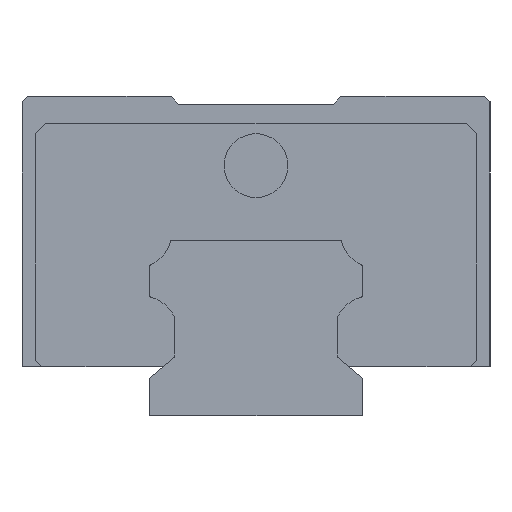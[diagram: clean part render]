
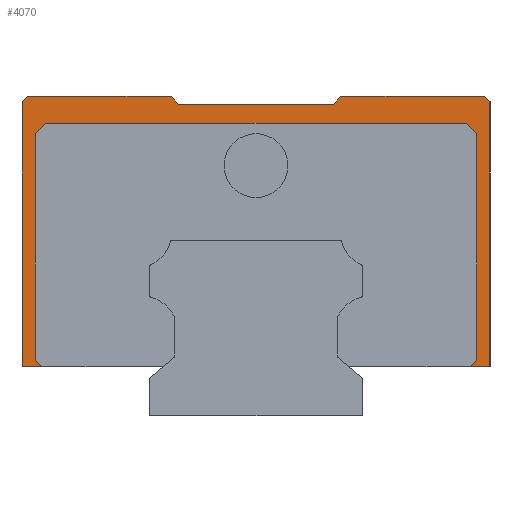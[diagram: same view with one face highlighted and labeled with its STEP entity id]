
A CAD part, left-side view. The second image highlights one B-rep face of the part: STEP entity #4070.
In plain terms, the highlighted planar face has unit normal (-1, 0, 0).
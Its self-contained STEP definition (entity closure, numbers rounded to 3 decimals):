
#18 = DIRECTION ( 'NONE',  ( 0., 0.643, -0.766 ) ) ;
#68 = CARTESIAN_POINT ( 'NONE',  ( -39., 22., 29.5 ) ) ;
#82 = VECTOR ( 'NONE', #4209, 1000. ) ;
#106 = DIRECTION ( 'NONE',  ( 0., 0.707, 0.707 ) ) ;
#134 = CARTESIAN_POINT ( 'NONE',  ( -39., -7.963, 30. ) ) ;
#135 = DIRECTION ( 'NONE',  ( 0., 0., 1. ) ) ;
#150 = DIRECTION ( 'NONE',  ( 0., 0., -1. ) ) ;
#154 = EDGE_LOOP ( 'NONE', ( #1640, #3802, #6086, #2633, #1705, #3835, #2294, #3677, #4543, #1935, #3776, #503, #4293, #3378, #2617, #3417, #715, #4851 ) ) ;
#211 = CARTESIAN_POINT ( 'NONE',  ( -39., -20.75, 30. ) ) ;
#216 = CARTESIAN_POINT ( 'NONE',  ( -39., -7.333, 29.25 ) ) ;
#223 = EDGE_CURVE ( 'NONE', #341, #5118, #1896, .T. ) ;
#238 = CARTESIAN_POINT ( 'NONE',  ( -39., -22., 30. ) ) ;
#315 = EDGE_CURVE ( 'NONE', #4822, #5720, #708, .T. ) ;
#331 = EDGE_CURVE ( 'NONE', #841, #4822, #5818, .T. ) ;
#341 = VERTEX_POINT ( 'NONE', #4939 ) ;
#343 = EDGE_CURVE ( 'NONE', #648, #3917, #5377, .T. ) ;
#409 = LINE ( 'NONE', #1359, #4228 ) ;
#412 = VECTOR ( 'NONE', #4991, 1000. ) ;
#423 = VERTEX_POINT ( 'NONE', #2969 ) ;
#498 = CARTESIAN_POINT ( 'NONE',  ( -39., -22., 27.5 ) ) ;
#503 = ORIENTED_EDGE ( 'NONE', *, *, #2989, .T. ) ;
#648 = VERTEX_POINT ( 'NONE', #3772 ) ;
#675 = CARTESIAN_POINT ( 'NONE',  ( -39., -22., 4.6 ) ) ;
#692 = VECTOR ( 'NONE', #5832, 1000. ) ;
#708 = LINE ( 'NONE', #675, #4040 ) ;
#715 = ORIENTED_EDGE ( 'NONE', *, *, #343, .F. ) ;
#726 = DIRECTION ( 'NONE',  ( 0., -1., 0. ) ) ;
#755 = DIRECTION ( 'NONE',  ( 0., 1., 0. ) ) ;
#759 = DIRECTION ( 'NONE',  ( 0., 0.707, 0.707 ) ) ;
#761 = VECTOR ( 'NONE', #18, 1000. ) ;
#821 = EDGE_CURVE ( 'NONE', #1596, #341, #5398, .T. ) ;
#841 = VERTEX_POINT ( 'NONE', #3886 ) ;
#1023 = CARTESIAN_POINT ( 'NONE',  ( -39., -22., 29.5 ) ) ;
#1072 = CARTESIAN_POINT ( 'NONE',  ( -39., -21.5, 30. ) ) ;
#1084 = VERTEX_POINT ( 'NONE', #3902 ) ;
#1149 = CARTESIAN_POINT ( 'NONE',  ( -39., 21.5, 30. ) ) ;
#1177 = CARTESIAN_POINT ( 'NONE',  ( -39., -7.333, 29.25 ) ) ;
#1182 = CARTESIAN_POINT ( 'NONE',  ( -39., -7.963, 30. ) ) ;
#1253 = VECTOR ( 'NONE', #755, 1000. ) ;
#1272 = VECTOR ( 'NONE', #5884, 1000. ) ;
#1344 = CARTESIAN_POINT ( 'NONE',  ( -39., -2.375, 49.625 ) ) ;
#1359 = CARTESIAN_POINT ( 'NONE',  ( -39., 22., 30. ) ) ;
#1381 = VECTOR ( 'NONE', #3400, 1000. ) ;
#1445 = CARTESIAN_POINT ( 'NONE',  ( -39., 11.775, -3.775 ) ) ;
#1596 = VERTEX_POINT ( 'NONE', #1177 ) ;
#1617 = CARTESIAN_POINT ( 'NONE',  ( -39., -22., 28. ) ) ;
#1640 = ORIENTED_EDGE ( 'NONE', *, *, #3051, .F. ) ;
#1705 = ORIENTED_EDGE ( 'NONE', *, *, #5559, .F. ) ;
#1723 = CARTESIAN_POINT ( 'NONE',  ( -39., 20.15, 4.6 ) ) ;
#1729 = CARTESIAN_POINT ( 'NONE',  ( -39., 9., 4.6 ) ) ;
#1737 = EDGE_CURVE ( 'NONE', #4753, #2543, #2481, .T. ) ;
#1896 = LINE ( 'NONE', #4722, #6022 ) ;
#1920 = DIRECTION ( 'NONE',  ( 0., 0.643, 0.766 ) ) ;
#1928 = DIRECTION ( 'NONE',  ( 0., -0.707, -0.707 ) ) ;
#1935 = ORIENTED_EDGE ( 'NONE', *, *, #4077, .T. ) ;
#1957 = VECTOR ( 'NONE', #106, 1000. ) ;
#1974 = LINE ( 'NONE', #498, #5309 ) ;
#2020 = LINE ( 'NONE', #211, #5509 ) ;
#2107 = LINE ( 'NONE', #4989, #3352 ) ;
#2169 = LINE ( 'NONE', #2597, #5211 ) ;
#2222 = CARTESIAN_POINT ( 'NONE',  ( -39., -33.775, 18.225 ) ) ;
#2267 = EDGE_CURVE ( 'NONE', #5720, #3495, #4055, .T. ) ;
#2294 = ORIENTED_EDGE ( 'NONE', *, *, #2267, .F. ) ;
#2303 = PLANE ( 'NONE',  #3055 ) ;
#2326 = LINE ( 'NONE', #1344, #82 ) ;
#2418 = FACE_OUTER_BOUND ( 'NONE', #154, .T. ) ;
#2481 = LINE ( 'NONE', #5253, #692 ) ;
#2514 = DIRECTION ( 'NONE',  ( 1., 0., 0. ) ) ;
#2543 = VERTEX_POINT ( 'NONE', #5715 ) ;
#2593 = CARTESIAN_POINT ( 'NONE',  ( -39., -20.75, 26.5 ) ) ;
#2596 = VERTEX_POINT ( 'NONE', #2593 ) ;
#2597 = CARTESIAN_POINT ( 'NONE',  ( -39., -19.625, 27.625 ) ) ;
#2602 = CARTESIAN_POINT ( 'NONE',  ( -39., 22., 4.6 ) ) ;
#2617 = ORIENTED_EDGE ( 'NONE', *, *, #4699, .F. ) ;
#2633 = ORIENTED_EDGE ( 'NONE', *, *, #3733, .F. ) ;
#2683 = EDGE_CURVE ( 'NONE', #4243, #648, #5368, .T. ) ;
#2969 = CARTESIAN_POINT ( 'NONE',  ( -39., 19.75, 27.5 ) ) ;
#2989 = EDGE_CURVE ( 'NONE', #3388, #1596, #5232, .T. ) ;
#3037 = VECTOR ( 'NONE', #1928, 1000. ) ;
#3051 = EDGE_CURVE ( 'NONE', #2543, #4243, #4735, .T. ) ;
#3055 = AXIS2_PLACEMENT_3D ( 'NONE', #238, #2514, #3878 ) ;
#3352 = VECTOR ( 'NONE', #5403, 1000. ) ;
#3378 = ORIENTED_EDGE ( 'NONE', *, *, #223, .T. ) ;
#3388 = VERTEX_POINT ( 'NONE', #1182 ) ;
#3400 = DIRECTION ( 'NONE',  ( 0., 1., 0. ) ) ;
#3417 = ORIENTED_EDGE ( 'NONE', *, *, #5513, .T. ) ;
#3481 = EDGE_CURVE ( 'NONE', #3388, #5386, #409, .T. ) ;
#3495 = VERTEX_POINT ( 'NONE', #5182 ) ;
#3677 = ORIENTED_EDGE ( 'NONE', *, *, #315, .F. ) ;
#3733 = EDGE_CURVE ( 'NONE', #1084, #423, #1974, .T. ) ;
#3772 = CARTESIAN_POINT ( 'NONE',  ( -39., 22., 4.6 ) ) ;
#3776 = ORIENTED_EDGE ( 'NONE', *, *, #3481, .F. ) ;
#3802 = ORIENTED_EDGE ( 'NONE', *, *, #1737, .F. ) ;
#3835 = ORIENTED_EDGE ( 'NONE', *, *, #4707, .F. ) ;
#3878 = DIRECTION ( 'NONE',  ( 0., 1., 0. ) ) ;
#3886 = CARTESIAN_POINT ( 'NONE',  ( -39., -22., 29.5 ) ) ;
#3902 = CARTESIAN_POINT ( 'NONE',  ( -39., -19.75, 27.5 ) ) ;
#3917 = VERTEX_POINT ( 'NONE', #68 ) ;
#3943 = CARTESIAN_POINT ( 'NONE',  ( -39., 20.75, 26.5 ) ) ;
#3996 = EDGE_CURVE ( 'NONE', #423, #4753, #2326, .T. ) ;
#4040 = VECTOR ( 'NONE', #5408, 1000. ) ;
#4055 = LINE ( 'NONE', #2222, #412 ) ;
#4070 = ADVANCED_FACE ( 'NONE', ( #2418 ), #2303, .F. ) ;
#4077 = EDGE_CURVE ( 'NONE', #841, #5386, #4334, .T. ) ;
#4107 = VERTEX_POINT ( 'NONE', #1149 ) ;
#4196 = DIRECTION ( 'NONE',  ( 0., -1., 0. ) ) ;
#4209 = DIRECTION ( 'NONE',  ( 0., 0.707, -0.707 ) ) ;
#4228 = VECTOR ( 'NONE', #4196, 1000. ) ;
#4243 = VERTEX_POINT ( 'NONE', #1723 ) ;
#4293 = ORIENTED_EDGE ( 'NONE', *, *, #821, .T. ) ;
#4334 = LINE ( 'NONE', #1023, #1957 ) ;
#4543 = ORIENTED_EDGE ( 'NONE', *, *, #331, .F. ) ;
#4699 = EDGE_CURVE ( 'NONE', #4107, #5118, #4858, .T. ) ;
#4707 = EDGE_CURVE ( 'NONE', #3495, #2596, #2020, .T. ) ;
#4722 = CARTESIAN_POINT ( 'NONE',  ( -39., 7.333, 29.25 ) ) ;
#4735 = LINE ( 'NONE', #1445, #3037 ) ;
#4748 = DIRECTION ( 'NONE',  ( 0., 1., 0. ) ) ;
#4753 = VERTEX_POINT ( 'NONE', #3943 ) ;
#4822 = VERTEX_POINT ( 'NONE', #4926 ) ;
#4851 = ORIENTED_EDGE ( 'NONE', *, *, #2683, .F. ) ;
#4858 = LINE ( 'NONE', #5773, #6018 ) ;
#4926 = CARTESIAN_POINT ( 'NONE',  ( -39., -22., 4.6 ) ) ;
#4939 = CARTESIAN_POINT ( 'NONE',  ( -39., 7.333, 29.25 ) ) ;
#4989 = CARTESIAN_POINT ( 'NONE',  ( -39., 21.5, 30. ) ) ;
#4991 = DIRECTION ( 'NONE',  ( 0., -0.707, 0.707 ) ) ;
#5030 = CARTESIAN_POINT ( 'NONE',  ( -39., -20.15, 4.6 ) ) ;
#5118 = VERTEX_POINT ( 'NONE', #5768 ) ;
#5182 = CARTESIAN_POINT ( 'NONE',  ( -39., -20.75, 5.2 ) ) ;
#5211 = VECTOR ( 'NONE', #759, 1000. ) ;
#5232 = LINE ( 'NONE', #134, #761 ) ;
#5253 = CARTESIAN_POINT ( 'NONE',  ( -39., 20.75, 30. ) ) ;
#5309 = VECTOR ( 'NONE', #4748, 1000. ) ;
#5368 = LINE ( 'NONE', #1729, #1253 ) ;
#5377 = LINE ( 'NONE', #2602, #1272 ) ;
#5386 = VERTEX_POINT ( 'NONE', #1072 ) ;
#5398 = LINE ( 'NONE', #216, #1381 ) ;
#5403 = DIRECTION ( 'NONE',  ( 0., 0.707, -0.707 ) ) ;
#5408 = DIRECTION ( 'NONE',  ( 0., 1., 0. ) ) ;
#5509 = VECTOR ( 'NONE', #135, 1000. ) ;
#5513 = EDGE_CURVE ( 'NONE', #4107, #3917, #2107, .T. ) ;
#5559 = EDGE_CURVE ( 'NONE', #2596, #1084, #2169, .T. ) ;
#5715 = CARTESIAN_POINT ( 'NONE',  ( -39., 20.75, 5.2 ) ) ;
#5720 = VERTEX_POINT ( 'NONE', #5030 ) ;
#5768 = CARTESIAN_POINT ( 'NONE',  ( -39., 7.963, 30. ) ) ;
#5773 = CARTESIAN_POINT ( 'NONE',  ( -39., 22., 30. ) ) ;
#5818 = LINE ( 'NONE', #1617, #6114 ) ;
#5832 = DIRECTION ( 'NONE',  ( 0., 0., -1. ) ) ;
#5884 = DIRECTION ( 'NONE',  ( 0., 0., 1. ) ) ;
#6018 = VECTOR ( 'NONE', #726, 1000. ) ;
#6022 = VECTOR ( 'NONE', #1920, 1000. ) ;
#6086 = ORIENTED_EDGE ( 'NONE', *, *, #3996, .F. ) ;
#6114 = VECTOR ( 'NONE', #150, 1000. ) ;
